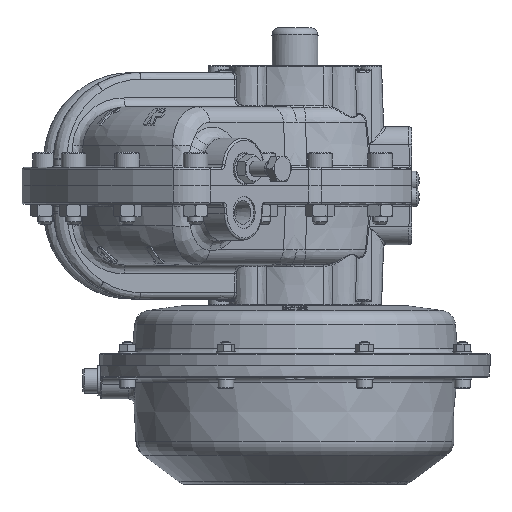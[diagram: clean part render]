
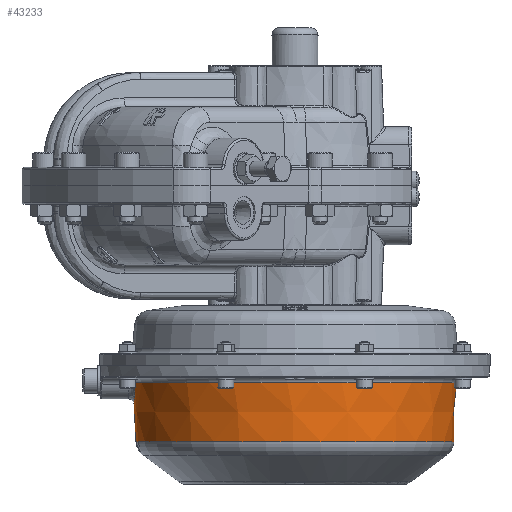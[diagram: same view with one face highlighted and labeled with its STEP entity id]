
A CAD part, left-side view. The second image highlights one B-rep face of the part: STEP entity #43233.
In plain terms, the highlighted conical face has half-angle 3 degrees and reference radius 85.344 mm.
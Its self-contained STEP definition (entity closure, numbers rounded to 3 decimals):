
#4914=B_SPLINE_CURVE_WITH_KNOTS('',3,(#97815,#97816,#97817,#97818,#97819,
#97820,#97821,#97822,#97823,#97824,#97825),.UNSPECIFIED.,.F.,.F.,(4,1,1,
1,1,1,1,1,4),(0.,0.004,0.008,0.012,
0.016,0.02,0.025,0.029,
0.033),.UNSPECIFIED.);
#4915=B_SPLINE_CURVE_WITH_KNOTS('',3,(#97863,#97864,#97865,#97866,#97867),
 .UNSPECIFIED.,.F.,.F.,(4,1,4),(0.,0.001,0.003),
 .UNSPECIFIED.);
#4918=B_SPLINE_CURVE_WITH_KNOTS('',3,(#97915,#97916,#97917,#97918,#97919),
 .UNSPECIFIED.,.F.,.F.,(4,1,4),(0.,0.001,0.003),
 .UNSPECIFIED.);
#10950=ORIENTED_EDGE('',*,*,#22533,.T.);
#10951=ORIENTED_EDGE('',*,*,#22532,.T.);
#10952=ORIENTED_EDGE('',*,*,#22526,.T.);
#10953=ORIENTED_EDGE('',*,*,#22528,.T.);
#10954=ORIENTED_EDGE('',*,*,#22536,.T.);
#22526=EDGE_CURVE('',#28968,#28971,#4914,.T.);
#22528=EDGE_CURVE('',#28971,#28972,#4915,.T.);
#22532=EDGE_CURVE('',#28973,#28968,#4918,.T.);
#22533=EDGE_CURVE('',#28972,#28973,#32793,.F.);
#22536=EDGE_CURVE('',#28974,#28974,#32794,.F.);
#28968=VERTEX_POINT('',#97801);
#28971=VERTEX_POINT('',#97814);
#28972=VERTEX_POINT('',#97862);
#28973=VERTEX_POINT('',#97909);
#28974=VERTEX_POINT('',#97928);
#32793=CIRCLE('',#60773,85.195);
#32794=CIRCLE('',#60777,83.579);
#35656=EDGE_LOOP('',(#10950,#10951,#10952,#10953));
#35657=EDGE_LOOP('',(#10954));
#39234=FACE_BOUND('',#35656,.T.);
#39235=FACE_BOUND('',#35657,.T.);
#42155=CONICAL_SURFACE('',#60781,85.344,0.052);
#43233=ADVANCED_FACE('',(#39234,#39235),#42155,.T.);
#60773=AXIS2_PLACEMENT_3D('',#97921,#66971,#66972);
#60777=AXIS2_PLACEMENT_3D('',#97927,#66981,#66982);
#60781=AXIS2_PLACEMENT_3D('',#97937,#66989,#66990);
#66971=DIRECTION('',(0.,0.,1.));
#66972=DIRECTION('',(0.,-1.,0.));
#66981=DIRECTION('',(0.,0.,-1.));
#66982=DIRECTION('',(0.,1.,0.));
#66989=DIRECTION('',(0.,0.,1.));
#66990=DIRECTION('',(0.,-1.,0.));
#97801=CARTESIAN_POINT('',(-11.764,84.297,-70.082));
#97814=CARTESIAN_POINT('',(11.764,84.297,-70.082));
#97815=CARTESIAN_POINT('',(-11.764,84.297,-70.082));
#97816=CARTESIAN_POINT('',(-11.461,84.268,-71.433));
#97817=CARTESIAN_POINT('',(-10.435,84.274,-73.997));
#97818=CARTESIAN_POINT('',(-7.725,84.409,-77.178));
#97819=CARTESIAN_POINT('',(-4.116,84.563,-79.272));
#97820=CARTESIAN_POINT('',(-0.001,84.628,-80.008));
#97821=CARTESIAN_POINT('',(4.114,84.563,-79.272));
#97822=CARTESIAN_POINT('',(7.724,84.409,-77.178));
#97823=CARTESIAN_POINT('',(10.434,84.274,-73.999));
#97824=CARTESIAN_POINT('',(11.461,84.268,-71.433));
#97825=CARTESIAN_POINT('',(11.764,84.297,-70.082));
#97862=CARTESIAN_POINT('',(13.647,84.095,-68.533));
#97863=CARTESIAN_POINT('',(11.764,84.297,-70.082));
#97864=CARTESIAN_POINT('',(11.861,84.306,-69.648));
#97865=CARTESIAN_POINT('',(12.342,84.281,-68.854));
#97866=CARTESIAN_POINT('',(13.207,84.166,-68.533));
#97867=CARTESIAN_POINT('',(13.647,84.095,-68.533));
#97909=CARTESIAN_POINT('',(-13.647,84.095,-68.533));
#97915=CARTESIAN_POINT('',(-13.647,84.095,-68.533));
#97916=CARTESIAN_POINT('',(-13.207,84.166,-68.533));
#97917=CARTESIAN_POINT('',(-12.342,84.281,-68.854));
#97918=CARTESIAN_POINT('',(-11.861,84.306,-69.648));
#97919=CARTESIAN_POINT('',(-11.764,84.297,-70.082));
#97921=CARTESIAN_POINT('',(0.,0.,-68.533));
#97927=CARTESIAN_POINT('',(0.,0.,-99.366));
#97928=CARTESIAN_POINT('',(0.,83.579,-99.366));
#97937=CARTESIAN_POINT('',(0.,0.,-65.69));
